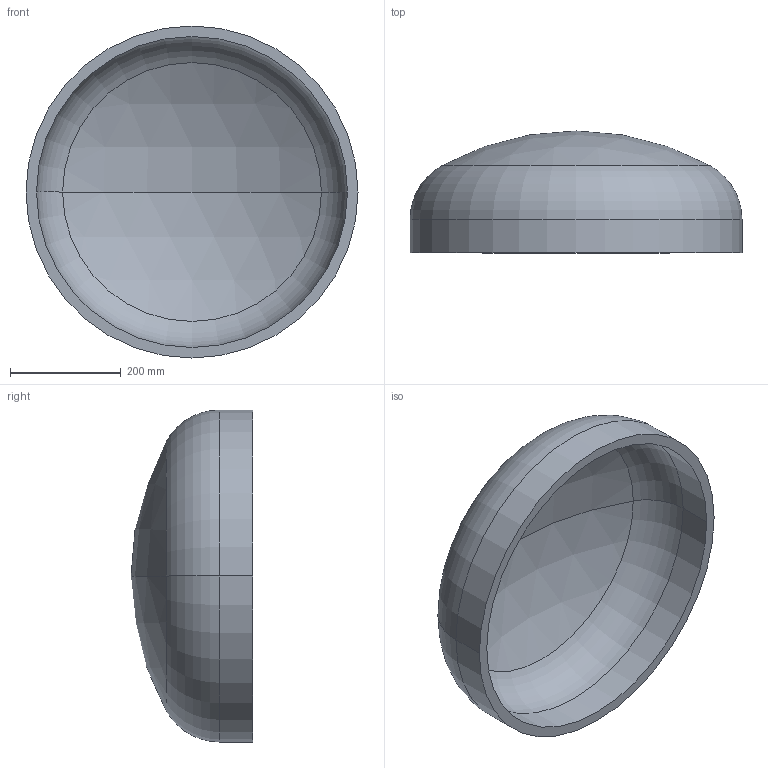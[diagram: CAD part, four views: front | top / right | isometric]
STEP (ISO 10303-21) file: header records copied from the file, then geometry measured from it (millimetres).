
FILE_DESCRIPTION (( 'STEP AP203' ), '1' );
FILE_NAME ('DIN 28013 Korbbogenform_-_Boden DIN 28013 - 600 x 60 - I - s=19.step', '2016-07-01T07:58:12', ( '' ), ( '' ), 'SwSTEP 2.0', 'SolidWorks 2013', '' );
FILE_SCHEMA (( 'CONFIG_CONTROL_DESIGN' ));
Length unit declared in the file: millimetre
Products named in the file (1): DIN 28013 Korbbogenform_-_Boden DIN 28013 - 600 x 60 - I - s=19
Bounding box: 600 x 220.14 x 600 mm (x, y, z)
Volume: 9213778.1 mm3; surface area: 1005307.2 mm2
Topology: 1 solids, 1 shells, 13 faces, 24 edges, 14 vertices
Faces by surface type: torus 4, cylinder 4, sphere 4, plane 1
Entity records: 407 total; most frequent: DIRECTION 72, CARTESIAN_POINT 52, ORIENTED_EDGE 48, AXIS2_PLACEMENT_3D 34, EDGE_CURVE 24, CIRCLE 20, EDGE_LOOP 14, VERTEX_POINT 14
